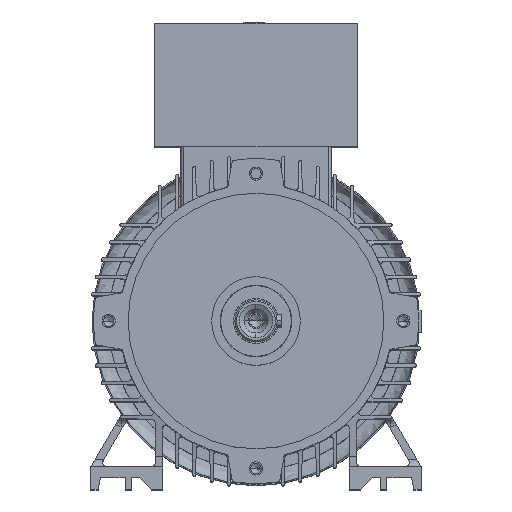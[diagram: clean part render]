
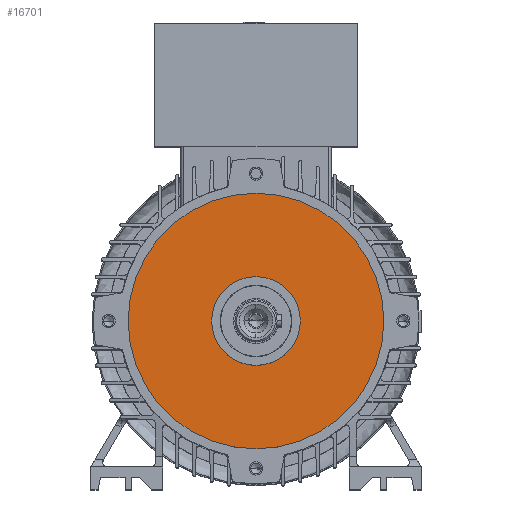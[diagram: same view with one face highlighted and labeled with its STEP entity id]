
A CAD part, top view. The second image highlights one B-rep face of the part: STEP entity #16701.
In plain terms, the highlighted planar face has unit normal (0, 0, 1).
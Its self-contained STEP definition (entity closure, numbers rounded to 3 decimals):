
#1780 = PLANE ( 'NONE',  #16533 ) ;
#1811 = AXIS2_PLACEMENT_3D ( 'NONE', #10611, #33076, #2236 ) ;
#2236 = DIRECTION ( 'NONE',  ( 1., 0., 0. ) ) ;
#3342 = VERTEX_POINT ( 'NONE', #30580 ) ;
#3676 = EDGE_CURVE ( 'NONE', #22284, #28080, #7658, .T. ) ;
#3749 = ORIENTED_EDGE ( 'NONE', *, *, #10697, .F. ) ;
#7094 = AXIS2_PLACEMENT_3D ( 'NONE', #14091, #25268, #8715 ) ;
#7459 = EDGE_LOOP ( 'NONE', ( #14339, #3749 ) ) ;
#7658 = CIRCLE ( 'NONE', #20289, 29.5 ) ;
#7691 = EDGE_CURVE ( 'NONE', #28388, #3342, #33892, .T. ) ;
#8064 = CIRCLE ( 'NONE', #1811, 85. ) ;
#8715 = DIRECTION ( 'NONE',  ( 1., 0., 0. ) ) ;
#10080 = DIRECTION ( 'NONE',  ( 1., 0., 0. ) ) ;
#10394 = DIRECTION ( 'NONE',  ( 0., 0., -1. ) ) ;
#10611 = CARTESIAN_POINT ( 'NONE',  ( 0., 0., 125. ) ) ;
#10697 = EDGE_CURVE ( 'NONE', #28080, #22284, #32090, .T. ) ;
#12184 = FACE_BOUND ( 'NONE', #7459, .T. ) ;
#14091 = CARTESIAN_POINT ( 'NONE',  ( 0., 0., 125. ) ) ;
#14339 = ORIENTED_EDGE ( 'NONE', *, *, #3676, .F. ) ;
#15607 = CARTESIAN_POINT ( 'NONE',  ( 0., 0., 125. ) ) ;
#16533 = AXIS2_PLACEMENT_3D ( 'NONE', #21295, #10394, #24512 ) ;
#16701 = ADVANCED_FACE ( 'NONE', ( #12184, #20618 ), #1780, .F. ) ;
#18522 = DIRECTION ( 'NONE',  ( 0., 0., 1. ) ) ;
#19468 = DIRECTION ( 'NONE',  ( 0., 0., -1. ) ) ;
#20289 = AXIS2_PLACEMENT_3D ( 'NONE', #32553, #18522, #10080 ) ;
#20618 = FACE_OUTER_BOUND ( 'NONE', #31238, .T. ) ;
#21295 = CARTESIAN_POINT ( 'NONE',  ( 0., 29.5, 125. ) ) ;
#22284 = VERTEX_POINT ( 'NONE', #26695 ) ;
#24512 = DIRECTION ( 'NONE',  ( -1., 0., 0. ) ) ;
#24914 = DIRECTION ( 'NONE',  ( 1., 0., 0. ) ) ;
#25106 = ORIENTED_EDGE ( 'NONE', *, *, #7691, .F. ) ;
#25268 = DIRECTION ( 'NONE',  ( 0., 0., 1. ) ) ;
#26695 = CARTESIAN_POINT ( 'NONE',  ( 29.5, 0., 125. ) ) ;
#28080 = VERTEX_POINT ( 'NONE', #35173 ) ;
#28388 = VERTEX_POINT ( 'NONE', #34363 ) ;
#28942 = AXIS2_PLACEMENT_3D ( 'NONE', #15607, #19468, #24914 ) ;
#29754 = EDGE_CURVE ( 'NONE', #3342, #28388, #8064, .T. ) ;
#30214 = ORIENTED_EDGE ( 'NONE', *, *, #29754, .F. ) ;
#30580 = CARTESIAN_POINT ( 'NONE',  ( 85., 0., 125. ) ) ;
#31238 = EDGE_LOOP ( 'NONE', ( #30214, #25106 ) ) ;
#32090 = CIRCLE ( 'NONE', #7094, 29.5 ) ;
#32553 = CARTESIAN_POINT ( 'NONE',  ( 0., 0., 125. ) ) ;
#33076 = DIRECTION ( 'NONE',  ( 0., 0., -1. ) ) ;
#33892 = CIRCLE ( 'NONE', #28942, 85. ) ;
#34363 = CARTESIAN_POINT ( 'NONE',  ( -85., 0., 125. ) ) ;
#35173 = CARTESIAN_POINT ( 'NONE',  ( -29.5, 0., 125. ) ) ;
